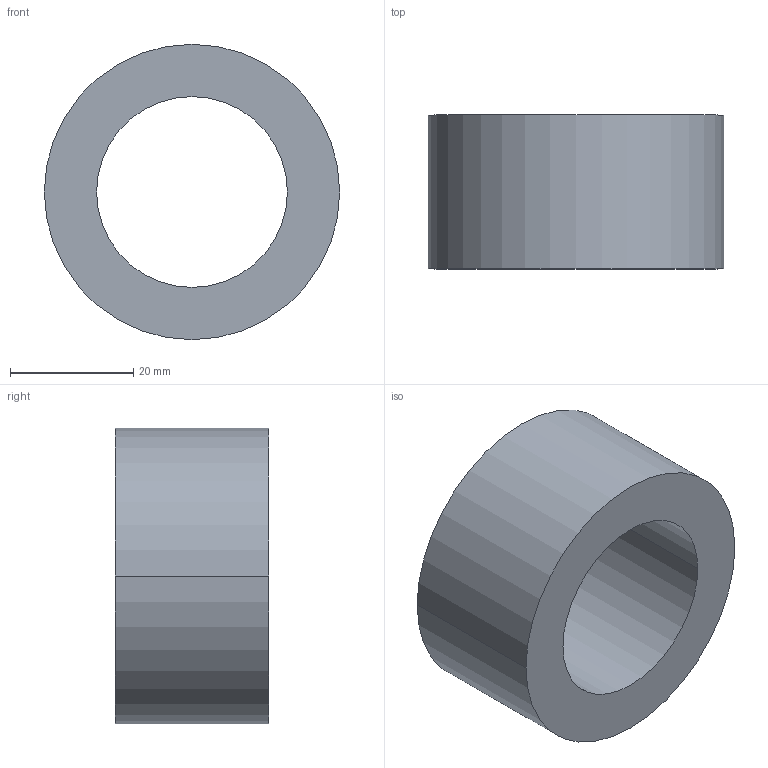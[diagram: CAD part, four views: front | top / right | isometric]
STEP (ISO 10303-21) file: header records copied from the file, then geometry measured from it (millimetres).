
FILE_DESCRIPTION (( 'STEP AP203' ), '1' );
FILE_NAME ('30800.WPP48J31.0.step', '2019-01-23T22:51:46', ( '' ), ( '' ), 'SwSTEP 2.0', 'SolidWorks 2017', '' );
FILE_SCHEMA (( 'CONFIG_CONTROL_DESIGN' ));
Length unit declared in the file: millimetre
Products named in the file (1): 30800.WPP48J31.0
Bounding box: 48 x 25 x 48 mm (x, y, z)
Volume: 26173.5 mm3; surface area: 8192.8 mm2
Topology: 1 solids, 1 shells, 8 faces, 16 edges, 10 vertices
Faces by surface type: cylinder 4, torus 2, plane 2
Entity records: 297 total; most frequent: DIRECTION 46, CARTESIAN_POINT 35, ORIENTED_EDGE 32, AXIS2_PLACEMENT_3D 21, EDGE_CURVE 16, CIRCLE 12, EDGE_LOOP 10, VERTEX_POINT 10
